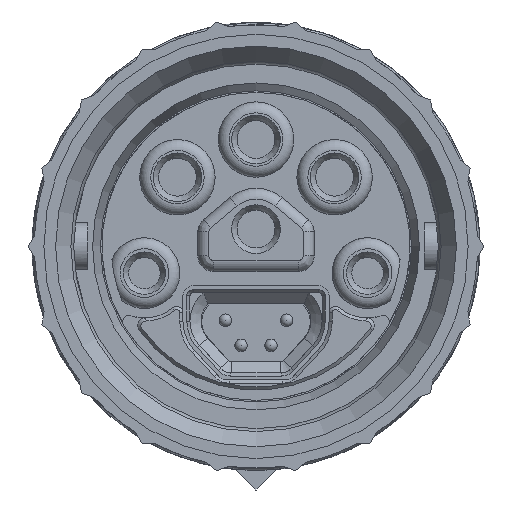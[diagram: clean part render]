
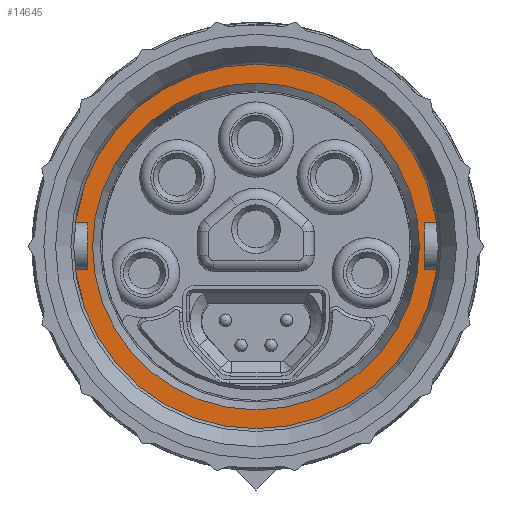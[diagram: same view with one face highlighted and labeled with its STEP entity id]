
A CAD part, front view. The second image highlights one B-rep face of the part: STEP entity #14645.
In plain terms, the highlighted planar face has unit normal (0, -1, 0).
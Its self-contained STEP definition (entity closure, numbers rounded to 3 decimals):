
#144=FACE_BOUND('',#2051,.T.);
#663=PLANE('',#15556);
#1282=FACE_OUTER_BOUND('',#2050,.T.);
#2050=EDGE_LOOP('',(#12230,#12231,#12232,#12233));
#2051=EDGE_LOOP('',(#12234));
#2417=CIRCLE('',#15555,10.4);
#2418=CIRCLE('',#15557,11.65);
#2419=CIRCLE('',#15558,2.);
#2420=CIRCLE('',#15559,12.55);
#2421=CIRCLE('',#15560,2.);
#6846=VERTEX_POINT('',#23509);
#6847=VERTEX_POINT('',#23513);
#6848=VERTEX_POINT('',#23514);
#6849=VERTEX_POINT('',#23516);
#6850=VERTEX_POINT('',#23518);
#8686=EDGE_CURVE('',#6846,#6846,#2417,.T.);
#8687=EDGE_CURVE('',#6847,#6848,#2418,.T.);
#8688=EDGE_CURVE('',#6849,#6848,#2419,.F.);
#8689=EDGE_CURVE('',#6849,#6850,#2420,.T.);
#8690=EDGE_CURVE('',#6850,#6847,#2421,.T.);
#12230=ORIENTED_EDGE('',*,*,#8687,.T.);
#12231=ORIENTED_EDGE('',*,*,#8688,.F.);
#12232=ORIENTED_EDGE('',*,*,#8689,.T.);
#12233=ORIENTED_EDGE('',*,*,#8690,.T.);
#12234=ORIENTED_EDGE('',*,*,#8686,.F.);
#14645=ADVANCED_FACE('',(#1282,#144),#663,.T.);
#15555=AXIS2_PLACEMENT_3D('',#23511,#18688,#18689);
#15556=AXIS2_PLACEMENT_3D('',#23512,#18690,#18691);
#15557=AXIS2_PLACEMENT_3D('',#23515,#18692,#18693);
#15558=AXIS2_PLACEMENT_3D('',#23517,#18694,#18695);
#15559=AXIS2_PLACEMENT_3D('',#23519,#18696,#18697);
#15560=AXIS2_PLACEMENT_3D('',#23520,#18698,#18699);
#18688=DIRECTION('center_axis',(0.,-1.,0.));
#18689=DIRECTION('ref_axis',(1.,0.,0.));
#18690=DIRECTION('center_axis',(0.,-1.,0.));
#18691=DIRECTION('ref_axis',(1.,0.,0.));
#18692=DIRECTION('center_axis',(0.,-1.,0.));
#18693=DIRECTION('ref_axis',(-0.087,0.,0.996));
#18694=DIRECTION('center_axis',(0.,1.,0.));
#18695=DIRECTION('ref_axis',(0.751,0.,0.661));
#18696=DIRECTION('center_axis',(0.,-1.,0.));
#18697=DIRECTION('ref_axis',(-1.,0.,0.));
#18698=DIRECTION('center_axis',(0.,1.,0.));
#18699=DIRECTION('ref_axis',(0.236,0.,-0.972));
#23509=CARTESIAN_POINT('',(-10.4,8.7,0.));
#23511=CARTESIAN_POINT('Origin',(0.,8.7,0.));
#23512=CARTESIAN_POINT('Origin',(-12.55,8.7,0.));
#23513=CARTESIAN_POINT('',(1.015,8.7,-11.606));
#23514=CARTESIAN_POINT('',(7.488,8.7,8.924));
#23515=CARTESIAN_POINT('Origin',(0.,8.7,0.));
#23516=CARTESIAN_POINT('',(9.42,8.7,8.293));
#23517=CARTESIAN_POINT('Origin',(7.919,8.7,6.971));
#23518=CARTESIAN_POINT('',(2.96,8.7,-12.196));
#23519=CARTESIAN_POINT('Origin',(0.,8.7,0.));
#23520=CARTESIAN_POINT('Origin',(2.488,8.7,-10.252));
